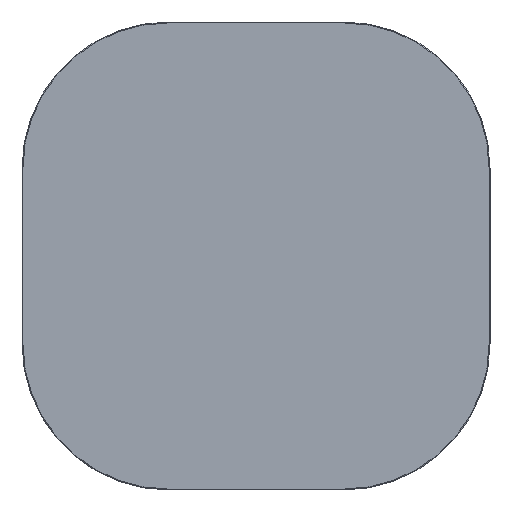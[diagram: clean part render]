
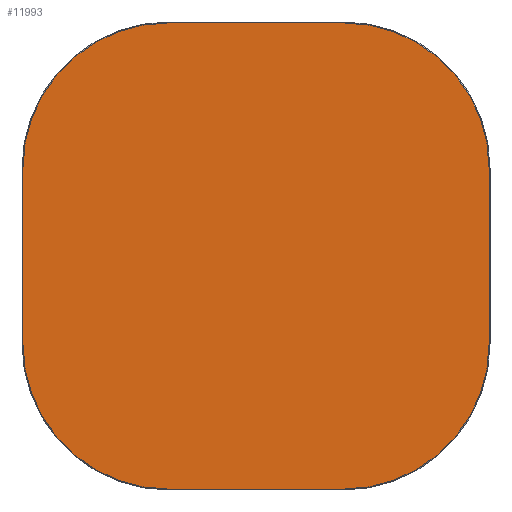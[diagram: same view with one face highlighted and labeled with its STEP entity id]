
A CAD part, top view. The second image highlights one B-rep face of the part: STEP entity #11993.
In plain terms, the highlighted planar face has unit normal (0, 0, 1).
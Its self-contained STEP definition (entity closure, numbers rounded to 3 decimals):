
#11918=CARTESIAN_POINT('',(0.,0.,20.));
#11919=DIRECTION('',(1.,0.,0.));
#11920=DIRECTION('',(0.,0.,1.));
#11921=AXIS2_PLACEMENT_3D('',#11918,#11920,#11919);
#11922=PLANE('',#11921);
#11923=CARTESIAN_POINT('',(-150.,-398.5,20.));
#11924=VERTEX_POINT('',#11923);
#11925=CARTESIAN_POINT('',(150.,-398.5,20.));
#11926=VERTEX_POINT('',#11925);
#11927=CARTESIAN_POINT('',(-150.,-398.5,20.));
#11928=DIRECTION('',(1.,0.,0.));
#11929=VECTOR('',#11928,300.);
#11930=LINE('',#11927,#11929);
#11931=EDGE_CURVE('',#11924,#11926,#11930,.T.);
#11932=ORIENTED_EDGE('E105',*,*,#11931,.T.);
#11933=CARTESIAN_POINT('',(398.5,-150.,20.));
#11934=VERTEX_POINT('',#11933);
#11935=CARTESIAN_POINT('',(150.,-150.,20.));
#11936=DIRECTION('',(0.,-1.,0.));
#11937=DIRECTION('',(0.,0.,1.));
#11938=AXIS2_PLACEMENT_3D('',#11935,#11937,#11936);
#11939=CIRCLE('',#11938,248.5);
#11940=EDGE_CURVE('',#11926,#11934,#11939,.T.);
#11941=ORIENTED_EDGE('E107',*,*,#11940,.T.);
#11942=CARTESIAN_POINT('',(398.5,150.,20.));
#11943=VERTEX_POINT('',#11942);
#11944=CARTESIAN_POINT('',(398.5,-150.,20.));
#11945=DIRECTION('',(0.,1.,0.));
#11946=VECTOR('',#11945,300.);
#11947=LINE('',#11944,#11946);
#11948=EDGE_CURVE('',#11934,#11943,#11947,.T.);
#11949=ORIENTED_EDGE('E109',*,*,#11948,.T.);
#11950=CARTESIAN_POINT('',(150.,398.5,20.));
#11951=VERTEX_POINT('',#11950);
#11952=CARTESIAN_POINT('',(150.,150.,20.));
#11953=DIRECTION('',(1.,0.,0.));
#11954=DIRECTION('',(0.,0.,1.));
#11955=AXIS2_PLACEMENT_3D('',#11952,#11954,#11953);
#11956=CIRCLE('',#11955,248.5);
#11957=EDGE_CURVE('',#11943,#11951,#11956,.T.);
#11958=ORIENTED_EDGE('E111',*,*,#11957,.T.);
#11959=CARTESIAN_POINT('',(-150.,398.5,20.));
#11960=VERTEX_POINT('',#11959);
#11961=CARTESIAN_POINT('',(150.,398.5,20.));
#11962=DIRECTION('',(-1.,0.,0.));
#11963=VECTOR('',#11962,300.);
#11964=LINE('',#11961,#11963);
#11965=EDGE_CURVE('',#11951,#11960,#11964,.T.);
#11966=ORIENTED_EDGE('E113',*,*,#11965,.T.);
#11967=CARTESIAN_POINT('',(-398.5,150.,20.));
#11968=VERTEX_POINT('',#11967);
#11969=CARTESIAN_POINT('',(-150.,150.,20.));
#11970=DIRECTION('',(0.,1.,0.));
#11971=DIRECTION('',(0.,0.,1.));
#11972=AXIS2_PLACEMENT_3D('',#11969,#11971,#11970);
#11973=CIRCLE('',#11972,248.5);
#11974=EDGE_CURVE('',#11960,#11968,#11973,.T.);
#11975=ORIENTED_EDGE('E115',*,*,#11974,.T.);
#11976=CARTESIAN_POINT('',(-398.5,-150.,20.));
#11977=VERTEX_POINT('',#11976);
#11978=CARTESIAN_POINT('',(-398.5,150.,20.));
#11979=DIRECTION('',(0.,-1.,0.));
#11980=VECTOR('',#11979,300.);
#11981=LINE('',#11978,#11980);
#11982=EDGE_CURVE('',#11968,#11977,#11981,.T.);
#11983=ORIENTED_EDGE('E117',*,*,#11982,.T.);
#11984=CARTESIAN_POINT('',(-150.,-150.,20.));
#11985=DIRECTION('',(-1.,0.,0.));
#11986=DIRECTION('',(-0.,0.,1.));
#11987=AXIS2_PLACEMENT_3D('',#11984,#11986,#11985);
#11988=CIRCLE('',#11987,248.5);
#11989=EDGE_CURVE('',#11977,#11924,#11988,.T.);
#11990=ORIENTED_EDGE('E119',*,*,#11989,.T.);
#11991=EDGE_LOOP('',(#11932,#11941,#11949,#11958,#11966,#11975,#11983,#11990));
#11992=FACE_OUTER_BOUND('',#11991,.T.);
#11993=ADVANCED_FACE('F2',(#11992),#11922,.T.);
